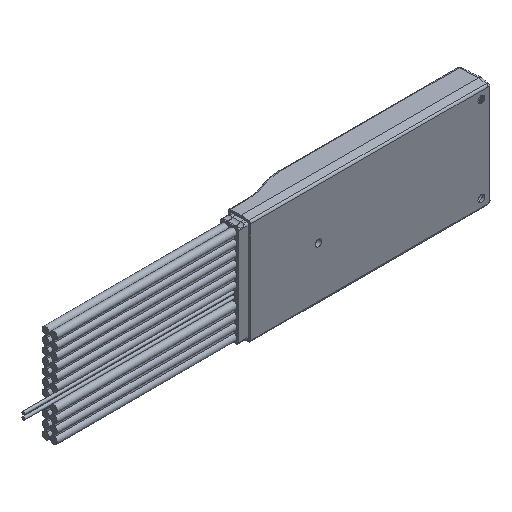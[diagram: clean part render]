
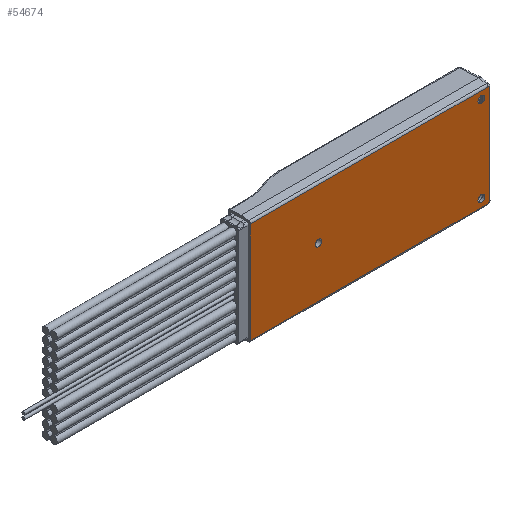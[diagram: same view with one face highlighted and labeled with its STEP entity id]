
A CAD part, isometric view. The second image highlights one B-rep face of the part: STEP entity #54674.
In plain terms, the highlighted planar face has unit normal (0, -1, 0).
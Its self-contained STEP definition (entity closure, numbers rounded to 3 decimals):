
#1476=FACE_BOUND('',#8504,.T.);
#1477=FACE_BOUND('',#8505,.T.);
#1478=FACE_BOUND('',#8506,.T.);
#2932=PLANE('',#58610);
#5341=FACE_OUTER_BOUND('',#8503,.T.);
#8503=EDGE_LOOP('',(#45843,#45844,#45845,#45846,#45847,#45848));
#8504=EDGE_LOOP('',(#45849));
#8505=EDGE_LOOP('',(#45850));
#8506=EDGE_LOOP('',(#45851));
#13605=LINE('',#84987,#19735);
#13614=LINE('',#85050,#19744);
#13615=LINE('',#85051,#19745);
#13616=LINE('',#85052,#19746);
#19735=VECTOR('',#68946,1.);
#19744=VECTOR('',#69005,1.);
#19745=VECTOR('',#69006,1.);
#19746=VECTOR('',#69007,1.);
#22684=CIRCLE('',#58580,1.6);
#22693=CIRCLE('',#58600,0.538);
#22697=CIRCLE('',#58604,0.538);
#22701=CIRCLE('',#58611,1.7);
#22702=CIRCLE('',#58612,1.7);
#26236=VERTEX_POINT('',#84974);
#26238=VERTEX_POINT('',#84984);
#26239=VERTEX_POINT('',#84986);
#26244=VERTEX_POINT('',#85022);
#26245=VERTEX_POINT('',#85024);
#26247=VERTEX_POINT('',#85038);
#26248=VERTEX_POINT('',#85040);
#26251=VERTEX_POINT('',#85053);
#26252=VERTEX_POINT('',#85055);
#33131=EDGE_CURVE('',#26236,#26236,#22684,.F.);
#33136=EDGE_CURVE('',#26239,#26238,#13605,.T.);
#33151=EDGE_CURVE('',#26244,#26245,#22693,.T.);
#33155=EDGE_CURVE('',#26247,#26248,#22697,.T.);
#33159=EDGE_CURVE('',#26248,#26238,#13614,.T.);
#33160=EDGE_CURVE('',#26245,#26247,#13615,.T.);
#33161=EDGE_CURVE('',#26239,#26244,#13616,.T.);
#33162=EDGE_CURVE('',#26251,#26251,#22701,.T.);
#33163=EDGE_CURVE('',#26252,#26252,#22702,.T.);
#45843=ORIENTED_EDGE('',*,*,#33159,.F.);
#45844=ORIENTED_EDGE('',*,*,#33155,.F.);
#45845=ORIENTED_EDGE('',*,*,#33160,.F.);
#45846=ORIENTED_EDGE('',*,*,#33151,.F.);
#45847=ORIENTED_EDGE('',*,*,#33161,.F.);
#45848=ORIENTED_EDGE('',*,*,#33136,.T.);
#45849=ORIENTED_EDGE('',*,*,#33131,.T.);
#45850=ORIENTED_EDGE('',*,*,#33162,.T.);
#45851=ORIENTED_EDGE('',*,*,#33163,.T.);
#54674=ADVANCED_FACE('',(#5341,#1476,#1477,#1478),#2932,.F.);
#58580=AXIS2_PLACEMENT_3D('',#84976,#68932,#68933);
#58600=AXIS2_PLACEMENT_3D('',#85025,#68983,#68984);
#58604=AXIS2_PLACEMENT_3D('',#85041,#68991,#68992);
#58610=AXIS2_PLACEMENT_3D('',#85049,#69003,#69004);
#58611=AXIS2_PLACEMENT_3D('',#85054,#69008,#69009);
#58612=AXIS2_PLACEMENT_3D('',#85056,#69010,#69011);
#68932=DIRECTION('center_axis',(0.,-1.,0.));
#68933=DIRECTION('ref_axis',(0.,0.,1.));
#68946=DIRECTION('',(0.,0.,-1.));
#68983=DIRECTION('center_axis',(0.,1.,0.));
#68984=DIRECTION('ref_axis',(1.,0.,0.));
#68991=DIRECTION('center_axis',(0.,1.,0.));
#68992=DIRECTION('ref_axis',(0.,0.,-1.));
#69003=DIRECTION('center_axis',(0.,1.,0.));
#69004=DIRECTION('ref_axis',(-1.,0.,0.));
#69005=DIRECTION('',(-1.,0.,0.));
#69006=DIRECTION('',(0.,0.,-1.));
#69007=DIRECTION('',(1.,0.,0.));
#69008=DIRECTION('center_axis',(0.,1.,0.));
#69009=DIRECTION('ref_axis',(0.,0.,-1.));
#69010=DIRECTION('center_axis',(0.,1.,0.));
#69011=DIRECTION('ref_axis',(0.,0.,-1.));
#84974=CARTESIAN_POINT('',(-28.384,-6.3,0.));
#84976=CARTESIAN_POINT('Origin',(-29.984,-6.3,0.));
#84984=CARTESIAN_POINT('',(-63.689,-6.3,-25.038));
#84986=CARTESIAN_POINT('',(-63.689,-6.3,25.038));
#84987=CARTESIAN_POINT('',(-63.689,-6.3,0.));
#85022=CARTESIAN_POINT('',(54.,-6.3,25.038));
#85024=CARTESIAN_POINT('',(54.538,-6.3,24.5));
#85025=CARTESIAN_POINT('Origin',(54.,-6.3,24.5));
#85038=CARTESIAN_POINT('',(54.538,-6.3,-24.5));
#85040=CARTESIAN_POINT('',(54.,-6.3,-25.038));
#85041=CARTESIAN_POINT('Origin',(54.,-6.3,-24.5));
#85049=CARTESIAN_POINT('Origin',(-5.,-6.3,0.));
#85050=CARTESIAN_POINT('',(-4.845,-6.3,-25.038));
#85051=CARTESIAN_POINT('',(54.538,-6.3,0.));
#85052=CARTESIAN_POINT('',(-4.845,-6.3,25.038));
#85053=CARTESIAN_POINT('',(52.384,-6.3,-21.25));
#85054=CARTESIAN_POINT('Origin',(50.684,-6.3,-21.25));
#85055=CARTESIAN_POINT('',(52.384,-6.3,21.25));
#85056=CARTESIAN_POINT('Origin',(50.684,-6.3,21.25));
